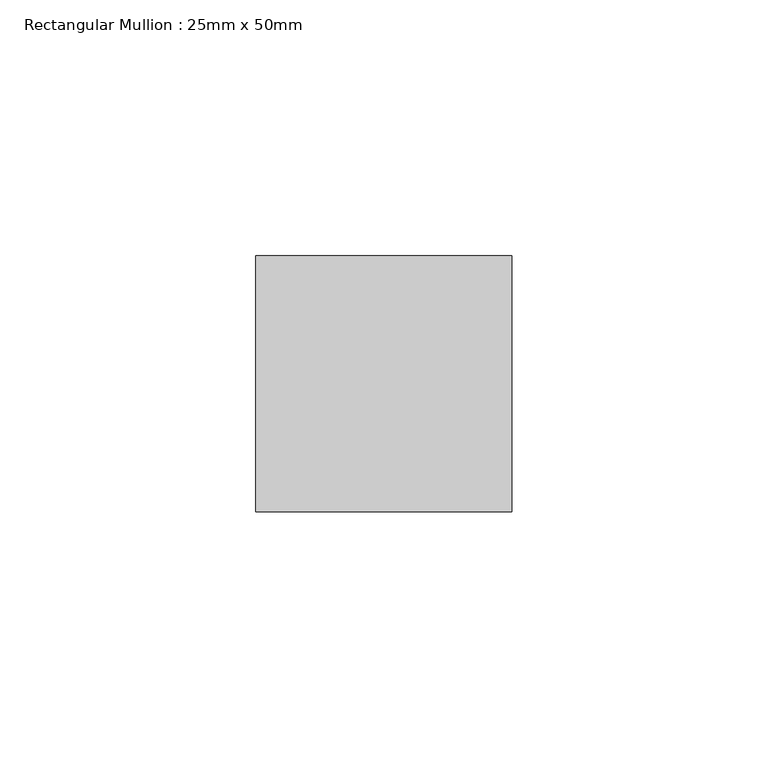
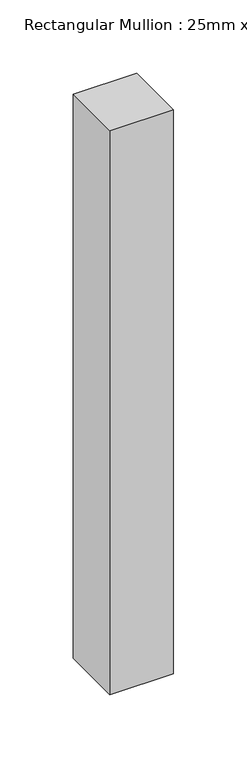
"""IFC4 building model written with IfcOpenShell, lengths in millimetres: member geometry, Rectangular Mullion : 25mm x 50mm."""

from ifc_helpers import new_model, si_unit, frame, origin, place, context, project, spatial, polyline, outline, extrude, source, transform, mapped, element, save


def rectangular_mullion_25mm_x_50mm_f2b536f5(model_context):
    return source(origin(), model_context, "Body", "SweptSolid", [
        extrude(outline(polyline([(25.0, 25.0), (25.0, -25.0), (-25.0, -25.0), (-25.0, 25.0), (25.0, 25.0)])), frame((0.0, 0.0, -470.0), z_axis=(0.0, 0.0, 1.0), x_axis=(1.0, 0.0, 0.0)), (0.0, 0.0, 1.0), 470.0),
    ])


if __name__ == "__main__":
    model = new_model("IFC4")
    model_context = context("Model", 3, world=origin())
    ifc_project = project(units=[si_unit("LENGTHUNIT", "METRE", prefix="MILLI")], contexts=[model_context])
    site = spatial("IfcSite", under=ifc_project)
    building = spatial("IfcBuilding", under=site)
    placement = place(None, origin())
    rectangular_mullion_25mm_x_50mm_shape = rectangular_mullion_25mm_x_50mm_f2b536f5(model_context)
    element("IfcMember", 1, ObjectType="Rectangular Mullion : 25mm x 50mm", at=placement, inside=building, context=model_context, shape_type="MappedRepresentation", body=[
        mapped(rectangular_mullion_25mm_x_50mm_shape, transform((0.0, 0.0, 0.0), x_axis=(1.0, 0.0, 0.0), y_axis=(0.0, 1.0, 0.0), z_axis=(0.0, 0.0, 1.0))),
    ])
    save(model, "model.ifc")
